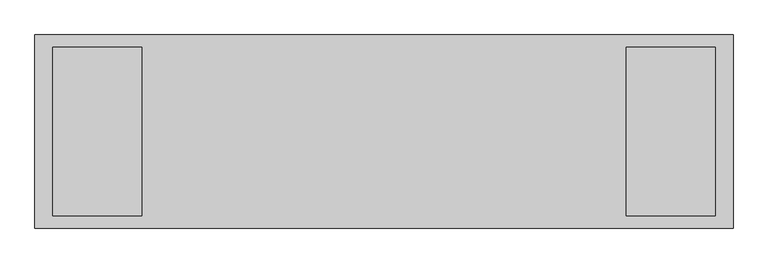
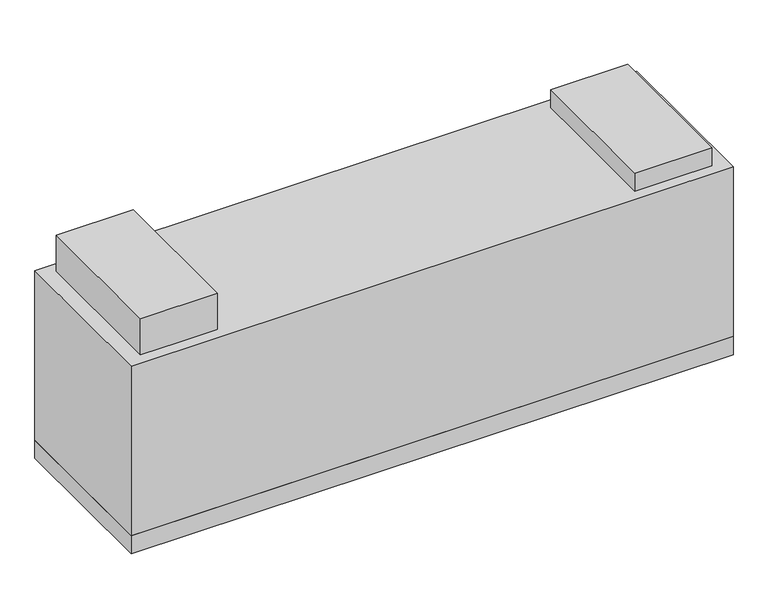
"""IFC4 building model written with IfcOpenShell, lengths in millimetres: proxy geometry, ADSK_ПВК_Вытяжные установки ЦСК 12,5 : В 0.2."""

from ifc_helpers import new_model, si_unit, frame, origin, origin_with_axes, place, context, project, spatial, polyline, outline, extrude, source, transform, mapped, element, save


def mechanical_equipment_eae478b0(model_context):
    return source(origin(), model_context, "Body", "SweptSolid", [
        extrude(outline(polyline([(3980.0, 82.5), (3980.0, 1217.5), (4580.0, 1217.5), (4580.0, 82.5), (3980.0, 82.5)])), frame((0.0, 0.0, 1550.0), z_axis=(0.0, 0.0, 1.0), x_axis=(1.0, 0.0, 0.0)), (0.0, 0.0, 1.0), 150.0),
        extrude(outline(polyline([(120.0, 82.5), (120.0, 1217.5), (720.0, 1217.5), (720.0, 82.5), (120.0, 82.5)])), frame((0.0, 0.0, 1550.0), z_axis=(0.0, 0.0, 1.0), x_axis=(1.0, 0.0, 0.0)), (0.0, 0.0, 1.0), 300.0),
        extrude(outline(polyline([(4700.0, 1300.0), (4700.0, 0.0), (0.0, 0.0), (0.0, 1300.0), (4700.0, 1300.0)])), frame((0.0, 0.0, 150.0), z_axis=(0.0, 0.0, 1.0), x_axis=(1.0, 0.0, 0.0)), (0.0, 0.0, 1.0), 1400.0),
        extrude(outline(polyline([(4700.0, 1300.0), (4700.0, 0.0), (0.0, 0.0), (0.0, 1300.0), (4700.0, 1300.0)])), origin_with_axes(), (0.0, 0.0, 1.0), 150.0),
    ])


if __name__ == "__main__":
    model = new_model("IFC4")
    model_context = context("Model", 3, world=origin())
    ifc_project = project(units=[si_unit("LENGTHUNIT", "METRE", prefix="MILLI")], contexts=[model_context])
    site = spatial("IfcSite", under=ifc_project)
    building = spatial("IfcBuilding", under=site)
    placement = place(None, origin())
    mechanical_equipment_shape = mechanical_equipment_eae478b0(model_context)
    element("IfcBuildingElementProxy", 1, Name="ADSK_ПВК_Вытяжные установки ЦСК 12,5 : В 0.2", ObjectType="ADSK_ПВК_Вытяжные установки ЦСК 12,5 : В 0.2", at=placement, inside=building, context=model_context, shape_type="MappedRepresentation", body=[
        mapped(mechanical_equipment_shape, transform((0.0, 0.0, 0.0), x_axis=(1.0, 0.0, 0.0), y_axis=(0.0, 1.0, 0.0), z_axis=(0.0, 0.0, 1.0))),
    ])
    save(model, "model.ifc")
